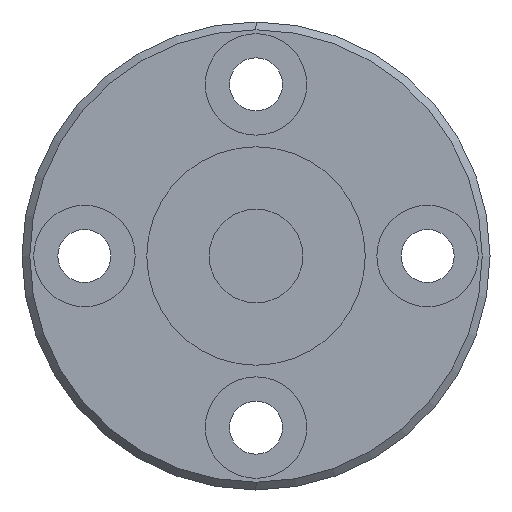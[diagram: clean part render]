
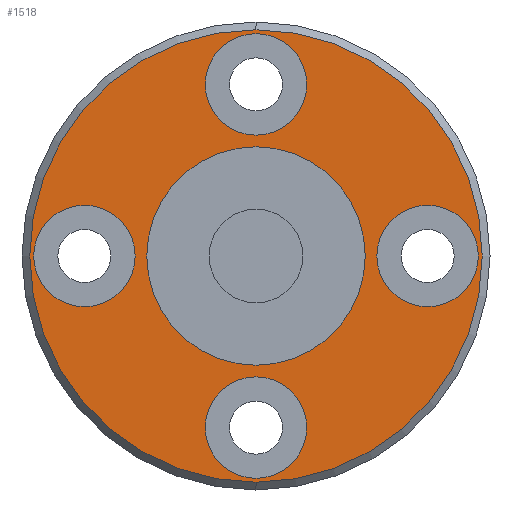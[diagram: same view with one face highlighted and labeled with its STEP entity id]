
A CAD part, left-side view. The second image highlights one B-rep face of the part: STEP entity #1518.
In plain terms, the highlighted planar face has unit normal (-1, 0, 0).
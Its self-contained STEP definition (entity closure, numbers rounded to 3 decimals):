
#2 = ORIENTED_EDGE ( 'NONE', *, *, #2158, .T. ) ;
#44 = CIRCLE ( 'NONE', #1849, 3.25 ) ;
#63 = CARTESIAN_POINT ( 'NONE',  ( 0., 0., 11. ) ) ;
#73 = VERTEX_POINT ( 'NONE', #775 ) ;
#78 = AXIS2_PLACEMENT_3D ( 'NONE', #1221, #155, #2224 ) ;
#79 = CIRCLE ( 'NONE', #2041, 14.5 ) ;
#106 = VERTEX_POINT ( 'NONE', #502 ) ;
#112 = DIRECTION ( 'NONE',  ( 0., 0., -1. ) ) ;
#120 = VERTEX_POINT ( 'NONE', #1930 ) ;
#146 = CARTESIAN_POINT ( 'NONE',  ( 0., -11., 0. ) ) ;
#155 = DIRECTION ( 'NONE',  ( 1., 0., 0. ) ) ;
#176 = FACE_BOUND ( 'NONE', #1843, .T. ) ;
#181 = EDGE_CURVE ( 'NONE', #1214, #1309, #1406, .T. ) ;
#196 = DIRECTION ( 'NONE',  ( -1., 0., 0. ) ) ;
#220 = VERTEX_POINT ( 'NONE', #2305 ) ;
#232 = FACE_BOUND ( 'NONE', #404, .T. ) ;
#283 = EDGE_LOOP ( 'NONE', ( #2088, #1355 ) ) ;
#285 = CIRCLE ( 'NONE', #398, 3.25 ) ;
#304 = ORIENTED_EDGE ( 'NONE', *, *, #1335, .F. ) ;
#308 = CARTESIAN_POINT ( 'NONE',  ( 0., 0., 11. ) ) ;
#321 = CARTESIAN_POINT ( 'NONE',  ( 0., 0., 0. ) ) ;
#329 = EDGE_CURVE ( 'NONE', #220, #73, #1308, .T. ) ;
#368 = AXIS2_PLACEMENT_3D ( 'NONE', #1279, #1784, #2004 ) ;
#398 = AXIS2_PLACEMENT_3D ( 'NONE', #308, #1932, #2125 ) ;
#404 = EDGE_LOOP ( 'NONE', ( #2165, #1740 ) ) ;
#428 = EDGE_CURVE ( 'NONE', #106, #685, #559, .T. ) ;
#492 = CARTESIAN_POINT ( 'NONE',  ( 0., 11., 0. ) ) ;
#502 = CARTESIAN_POINT ( 'NONE',  ( 0., 0., -7.75 ) ) ;
#522 = DIRECTION ( 'NONE',  ( -1., 0., 0. ) ) ;
#559 = CIRCLE ( 'NONE', #368, 3.25 ) ;
#609 = CIRCLE ( 'NONE', #2261, 7. ) ;
#663 = CARTESIAN_POINT ( 'NONE',  ( 0., 0., 0. ) ) ;
#685 = VERTEX_POINT ( 'NONE', #1379 ) ;
#725 = ORIENTED_EDGE ( 'NONE', *, *, #802, .F. ) ;
#775 = CARTESIAN_POINT ( 'NONE',  ( 0., 0., -7. ) ) ;
#776 = DIRECTION ( 'NONE',  ( -1., 0., 0. ) ) ;
#789 = DIRECTION ( 'NONE',  ( -1., 0., 0. ) ) ;
#802 = EDGE_CURVE ( 'NONE', #1167, #2109, #2290, .T. ) ;
#856 = CARTESIAN_POINT ( 'NONE',  ( 0., 11., -3.25 ) ) ;
#883 = FACE_OUTER_BOUND ( 'NONE', #2294, .T. ) ;
#911 = DIRECTION ( 'NONE',  ( 0., 0., 1. ) ) ;
#930 = EDGE_LOOP ( 'NONE', ( #2254, #1395 ) ) ;
#974 = DIRECTION ( 'NONE',  ( 0., 1., 0. ) ) ;
#983 = CARTESIAN_POINT ( 'NONE',  ( 0., 0., -11. ) ) ;
#1000 = CARTESIAN_POINT ( 'NONE',  ( 0., -11., 0. ) ) ;
#1035 = DIRECTION ( 'NONE',  ( 0., 0., 1. ) ) ;
#1069 = FACE_BOUND ( 'NONE', #1186, .T. ) ;
#1150 = AXIS2_PLACEMENT_3D ( 'NONE', #1969, #1828, #1653 ) ;
#1167 = VERTEX_POINT ( 'NONE', #1743 ) ;
#1176 = VERTEX_POINT ( 'NONE', #2300 ) ;
#1184 = DIRECTION ( 'NONE',  ( -1., 0., 0. ) ) ;
#1186 = EDGE_LOOP ( 'NONE', ( #1664, #2247 ) ) ;
#1199 = AXIS2_PLACEMENT_3D ( 'NONE', #1260, #1793, #1972 ) ;
#1214 = VERTEX_POINT ( 'NONE', #1914 ) ;
#1220 = CARTESIAN_POINT ( 'NONE',  ( 0., 0., -14.5 ) ) ;
#1221 = CARTESIAN_POINT ( 'NONE',  ( 0., 15., 0. ) ) ;
#1260 = CARTESIAN_POINT ( 'NONE',  ( 0., 11., 0. ) ) ;
#1271 = CARTESIAN_POINT ( 'NONE',  ( 0., -11., -3.25 ) ) ;
#1279 = CARTESIAN_POINT ( 'NONE',  ( 0., 0., -11. ) ) ;
#1298 = EDGE_CURVE ( 'NONE', #1176, #1577, #79, .T. ) ;
#1308 = CIRCLE ( 'NONE', #1416, 7. ) ;
#1309 = VERTEX_POINT ( 'NONE', #856 ) ;
#1335 = EDGE_CURVE ( 'NONE', #2109, #1167, #44, .T. ) ;
#1355 = ORIENTED_EDGE ( 'NONE', *, *, #2259, .F. ) ;
#1376 = DIRECTION ( 'NONE',  ( -1., 0., 0. ) ) ;
#1379 = CARTESIAN_POINT ( 'NONE',  ( 0., 0., -14.25 ) ) ;
#1388 = AXIS2_PLACEMENT_3D ( 'NONE', #63, #776, #1494 ) ;
#1395 = ORIENTED_EDGE ( 'NONE', *, *, #1545, .F. ) ;
#1401 = EDGE_CURVE ( 'NONE', #1309, #1214, #1807, .T. ) ;
#1406 = CIRCLE ( 'NONE', #2212, 3.25 ) ;
#1416 = AXIS2_PLACEMENT_3D ( 'NONE', #1800, #196, #911 ) ;
#1454 = AXIS2_PLACEMENT_3D ( 'NONE', #1000, #1726, #112 ) ;
#1484 = AXIS2_PLACEMENT_3D ( 'NONE', #983, #789, #974 ) ;
#1494 = DIRECTION ( 'NONE',  ( 0., -1., 0. ) ) ;
#1518 = ADVANCED_FACE ( 'NONE', ( #883, #1069, #176, #1854, #232, #1671 ), #2127, .F. ) ;
#1538 = EDGE_CURVE ( 'NONE', #1765, #120, #2040, .T. ) ;
#1545 = EDGE_CURVE ( 'NONE', #73, #220, #609, .T. ) ;
#1577 = VERTEX_POINT ( 'NONE', #1220 ) ;
#1582 = DIRECTION ( 'NONE',  ( -1., 0., 0. ) ) ;
#1602 = CIRCLE ( 'NONE', #1150, 14.5 ) ;
#1653 = DIRECTION ( 'NONE',  ( 0., 0., -1. ) ) ;
#1664 = ORIENTED_EDGE ( 'NONE', *, *, #1997, .F. ) ;
#1671 = FACE_BOUND ( 'NONE', #930, .T. ) ;
#1714 = DIRECTION ( 'NONE',  ( 0., 0., -1. ) ) ;
#1726 = DIRECTION ( 'NONE',  ( -1., 0., 0. ) ) ;
#1740 = ORIENTED_EDGE ( 'NONE', *, *, #1401, .F. ) ;
#1743 = CARTESIAN_POINT ( 'NONE',  ( 0., -11., 3.25 ) ) ;
#1765 = VERTEX_POINT ( 'NONE', #2194 ) ;
#1784 = DIRECTION ( 'NONE',  ( -1., 0., 0. ) ) ;
#1788 = CIRCLE ( 'NONE', #1484, 3.25 ) ;
#1793 = DIRECTION ( 'NONE',  ( -1., 0., 0. ) ) ;
#1800 = CARTESIAN_POINT ( 'NONE',  ( 0., 0., 0. ) ) ;
#1807 = CIRCLE ( 'NONE', #1199, 3.25 ) ;
#1828 = DIRECTION ( 'NONE',  ( -1., 0., 0. ) ) ;
#1843 = EDGE_LOOP ( 'NONE', ( #725, #304 ) ) ;
#1849 = AXIS2_PLACEMENT_3D ( 'NONE', #146, #1582, #2071 ) ;
#1854 = FACE_BOUND ( 'NONE', #283, .T. ) ;
#1914 = CARTESIAN_POINT ( 'NONE',  ( 0., 11., 3.25 ) ) ;
#1930 = CARTESIAN_POINT ( 'NONE',  ( 0., 0., 14.25 ) ) ;
#1932 = DIRECTION ( 'NONE',  ( -1., 0., 0. ) ) ;
#1969 = CARTESIAN_POINT ( 'NONE',  ( 0., 0., 0. ) ) ;
#1972 = DIRECTION ( 'NONE',  ( 0., 0., 1. ) ) ;
#1997 = EDGE_CURVE ( 'NONE', #120, #1765, #285, .T. ) ;
#2004 = DIRECTION ( 'NONE',  ( 0., 1., 0. ) ) ;
#2017 = ORIENTED_EDGE ( 'NONE', *, *, #1298, .T. ) ;
#2040 = CIRCLE ( 'NONE', #1388, 3.25 ) ;
#2041 = AXIS2_PLACEMENT_3D ( 'NONE', #663, #1376, #1714 ) ;
#2071 = DIRECTION ( 'NONE',  ( 0., 0., -1. ) ) ;
#2088 = ORIENTED_EDGE ( 'NONE', *, *, #428, .F. ) ;
#2109 = VERTEX_POINT ( 'NONE', #1271 ) ;
#2125 = DIRECTION ( 'NONE',  ( 0., -1., 0. ) ) ;
#2127 = PLANE ( 'NONE',  #78 ) ;
#2155 = DIRECTION ( 'NONE',  ( 0., 0., 1. ) ) ;
#2158 = EDGE_CURVE ( 'NONE', #1577, #1176, #1602, .T. ) ;
#2165 = ORIENTED_EDGE ( 'NONE', *, *, #181, .F. ) ;
#2194 = CARTESIAN_POINT ( 'NONE',  ( 0., 0., 7.75 ) ) ;
#2212 = AXIS2_PLACEMENT_3D ( 'NONE', #492, #1184, #1035 ) ;
#2224 = DIRECTION ( 'NONE',  ( 0., 0., -1. ) ) ;
#2247 = ORIENTED_EDGE ( 'NONE', *, *, #1538, .F. ) ;
#2254 = ORIENTED_EDGE ( 'NONE', *, *, #329, .F. ) ;
#2259 = EDGE_CURVE ( 'NONE', #685, #106, #1788, .T. ) ;
#2261 = AXIS2_PLACEMENT_3D ( 'NONE', #321, #522, #2155 ) ;
#2290 = CIRCLE ( 'NONE', #1454, 3.25 ) ;
#2294 = EDGE_LOOP ( 'NONE', ( #2, #2017 ) ) ;
#2300 = CARTESIAN_POINT ( 'NONE',  ( 0., 0., 14.5 ) ) ;
#2305 = CARTESIAN_POINT ( 'NONE',  ( 0., 0., 7. ) ) ;
